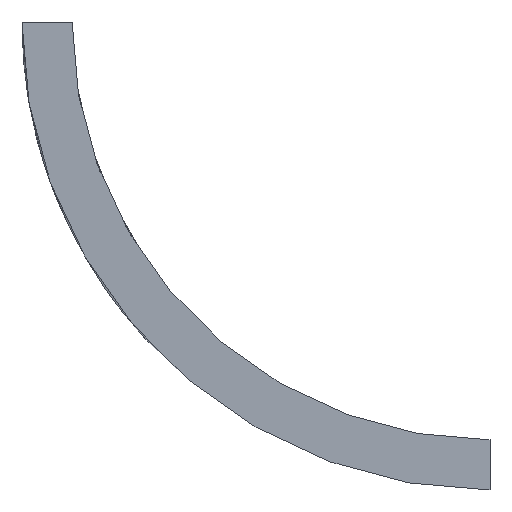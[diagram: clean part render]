
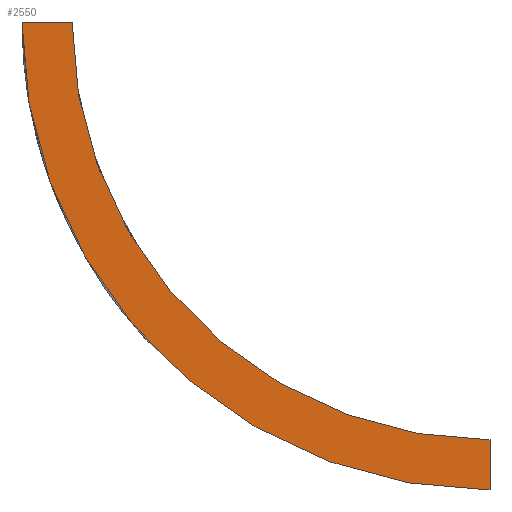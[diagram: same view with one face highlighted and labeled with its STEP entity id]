
A CAD part, front view. The second image highlights one B-rep face of the part: STEP entity #2550.
In plain terms, the highlighted planar face has unit normal (0, -1, 0).
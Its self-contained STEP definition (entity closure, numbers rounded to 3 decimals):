
#32 = CYLINDRICAL_SURFACE('',#33,10.);
#33 = AXIS2_PLACEMENT_3D('',#34,#35,#36);
#34 = CARTESIAN_POINT('',(-29.,-25.,-14.));
#35 = DIRECTION('',(0.,1.,0.));
#36 = DIRECTION('',(-0.707,0.,-0.707));
#438 = VERTEX_POINT('',#439);
#439 = CARTESIAN_POINT('',(-29.,-50.,-24.));
#453 = PLANE('',#454);
#454 = AXIS2_PLACEMENT_3D('',#455,#456,#457);
#455 = CARTESIAN_POINT('',(-29.,0.,-24.6));
#456 = DIRECTION('',(1.,0.,0.));
#457 = DIRECTION('',(-0.,0.,1.));
#465 = EDGE_CURVE('',#466,#438,#468,.T.);
#466 = VERTEX_POINT('',#467);
#467 = CARTESIAN_POINT('',(-39.,-50.,-14.));
#468 = SURFACE_CURVE('',#469,(#474,#481),.PCURVE_S1.);
#469 = CIRCLE('',#470,10.);
#470 = AXIS2_PLACEMENT_3D('',#471,#472,#473);
#471 = CARTESIAN_POINT('',(-29.,-50.,-14.));
#472 = DIRECTION('',(0.,-1.,0.));
#473 = DIRECTION('',(-1.,0.,0.));
#474 = PCURVE('',#32,#475);
#475 = DEFINITIONAL_REPRESENTATION('',(#476),#480);
#476 = LINE('',#477,#478);
#477 = CARTESIAN_POINT('',(0.785,-25.));
#478 = VECTOR('',#479,1.);
#479 = DIRECTION('',(-1.,0.));
#480 = ( GEOMETRIC_REPRESENTATION_CONTEXT(2) 
PARAMETRIC_REPRESENTATION_CONTEXT() REPRESENTATION_CONTEXT('2D SPACE',''
  ) );
#481 = PCURVE('',#482,#487);
#482 = PLANE('',#483);
#483 = AXIS2_PLACEMENT_3D('',#484,#485,#486);
#484 = CARTESIAN_POINT('',(-35.525,-50.,-20.525));
#485 = DIRECTION('',(0.,1.,0.));
#486 = DIRECTION('',(0.,-0.,1.));
#487 = DEFINITIONAL_REPRESENTATION('',(#488),#496);
#488 = ( BOUNDED_CURVE() B_SPLINE_CURVE(2,(#489,#490,#491,#492,#493,#494
,#495),.UNSPECIFIED.,.T.,.F.) B_SPLINE_CURVE_WITH_KNOTS((1,2,2,2,2,1),(
    -2.094,0.,2.094,4.189,6.283,
8.378),.UNSPECIFIED.) CURVE() GEOMETRIC_REPRESENTATION_ITEM() 
RATIONAL_B_SPLINE_CURVE((1.,0.5,1.,0.5,1.,0.5,1.)) REPRESENTATION_ITEM(
  '') );
#489 = CARTESIAN_POINT('',(6.525,-3.475));
#490 = CARTESIAN_POINT('',(-10.795,-3.475));
#491 = CARTESIAN_POINT('',(-2.135,11.525));
#492 = CARTESIAN_POINT('',(6.525,26.525));
#493 = CARTESIAN_POINT('',(15.185,11.525));
#494 = CARTESIAN_POINT('',(23.846,-3.475));
#495 = CARTESIAN_POINT('',(6.525,-3.475));
#496 = ( GEOMETRIC_REPRESENTATION_CONTEXT(2) 
PARAMETRIC_REPRESENTATION_CONTEXT() REPRESENTATION_CONTEXT('2D SPACE',''
  ) );
#514 = PLANE('',#515);
#515 = AXIS2_PLACEMENT_3D('',#516,#517,#518);
#516 = CARTESIAN_POINT('',(-39.6,-49.027,-14.));
#517 = DIRECTION('',(0.,0.,1.));
#518 = DIRECTION('',(1.,0.,0.));
#1457 = CYLINDRICAL_SURFACE('',#1458,11.2);
#1458 = AXIS2_PLACEMENT_3D('',#1459,#1460,#1461);
#1459 = CARTESIAN_POINT('',(-29.,-25.,-14.));
#1460 = DIRECTION('',(0.,1.,0.));
#1461 = DIRECTION('',(-0.707,0.,-0.707));
#1773 = VERTEX_POINT('',#1774);
#1774 = CARTESIAN_POINT('',(-29.,-50.,-25.2));
#1795 = EDGE_CURVE('',#1796,#1773,#1798,.T.);
#1796 = VERTEX_POINT('',#1797);
#1797 = CARTESIAN_POINT('',(-40.2,-50.,-14.));
#1798 = SURFACE_CURVE('',#1799,(#1804,#1811),.PCURVE_S1.);
#1799 = CIRCLE('',#1800,11.2);
#1800 = AXIS2_PLACEMENT_3D('',#1801,#1802,#1803);
#1801 = CARTESIAN_POINT('',(-29.,-50.,-14.));
#1802 = DIRECTION('',(0.,-1.,-0.));
#1803 = DIRECTION('',(-1.,0.,0.));
#1804 = PCURVE('',#1457,#1805);
#1805 = DEFINITIONAL_REPRESENTATION('',(#1806),#1810);
#1806 = LINE('',#1807,#1808);
#1807 = CARTESIAN_POINT('',(0.785,-25.));
#1808 = VECTOR('',#1809,1.);
#1809 = DIRECTION('',(-1.,0.));
#1810 = ( GEOMETRIC_REPRESENTATION_CONTEXT(2) 
PARAMETRIC_REPRESENTATION_CONTEXT() REPRESENTATION_CONTEXT('2D SPACE',''
  ) );
#1811 = PCURVE('',#482,#1812);
#1812 = DEFINITIONAL_REPRESENTATION('',(#1813),#1821);
#1813 = ( BOUNDED_CURVE() B_SPLINE_CURVE(2,(#1814,#1815,#1816,#1817,
#1818,#1819,#1820),.UNSPECIFIED.,.T.,.F.) B_SPLINE_CURVE_WITH_KNOTS((1,2
    ,2,2,2,1),(-2.094,0.,2.094,4.189,
6.283,8.378),.UNSPECIFIED.) CURVE() 
GEOMETRIC_REPRESENTATION_ITEM() RATIONAL_B_SPLINE_CURVE((1.,0.5,1.,0.5,
1.,0.5,1.)) REPRESENTATION_ITEM('') );
#1814 = CARTESIAN_POINT('',(6.525,-4.675));
#1815 = CARTESIAN_POINT('',(-12.874,-4.675));
#1816 = CARTESIAN_POINT('',(-3.174,12.125));
#1817 = CARTESIAN_POINT('',(6.525,28.925));
#1818 = CARTESIAN_POINT('',(16.225,12.125));
#1819 = CARTESIAN_POINT('',(25.924,-4.675));
#1820 = CARTESIAN_POINT('',(6.525,-4.675));
#1821 = ( GEOMETRIC_REPRESENTATION_CONTEXT(2) 
PARAMETRIC_REPRESENTATION_CONTEXT() REPRESENTATION_CONTEXT('2D SPACE',''
  ) );
#2528 = EDGE_CURVE('',#438,#1773,#2529,.T.);
#2529 = SURFACE_CURVE('',#2530,(#2534,#2541),.PCURVE_S1.);
#2530 = LINE('',#2531,#2532);
#2531 = CARTESIAN_POINT('',(-29.,-50.,-24.));
#2532 = VECTOR('',#2533,1.);
#2533 = DIRECTION('',(0.,0.,-1.));
#2534 = PCURVE('',#453,#2535);
#2535 = DEFINITIONAL_REPRESENTATION('',(#2536),#2540);
#2536 = LINE('',#2537,#2538);
#2537 = CARTESIAN_POINT('',(0.6,50.));
#2538 = VECTOR('',#2539,1.);
#2539 = DIRECTION('',(-1.,0.));
#2540 = ( GEOMETRIC_REPRESENTATION_CONTEXT(2) 
PARAMETRIC_REPRESENTATION_CONTEXT() REPRESENTATION_CONTEXT('2D SPACE',''
  ) );
#2541 = PCURVE('',#482,#2542);
#2542 = DEFINITIONAL_REPRESENTATION('',(#2543),#2547);
#2543 = LINE('',#2544,#2545);
#2544 = CARTESIAN_POINT('',(-3.475,6.525));
#2545 = VECTOR('',#2546,1.);
#2546 = DIRECTION('',(-1.,0.));
#2547 = ( GEOMETRIC_REPRESENTATION_CONTEXT(2) 
PARAMETRIC_REPRESENTATION_CONTEXT() REPRESENTATION_CONTEXT('2D SPACE',''
  ) );
#2550 = ADVANCED_FACE('',(#2551),#482,.F.);
#2551 = FACE_BOUND('',#2552,.F.);
#2552 = EDGE_LOOP('',(#2553,#2554,#2555,#2556));
#2553 = ORIENTED_EDGE('',*,*,#465,.T.);
#2554 = ORIENTED_EDGE('',*,*,#2528,.T.);
#2555 = ORIENTED_EDGE('',*,*,#1795,.F.);
#2556 = ORIENTED_EDGE('',*,*,#2557,.F.);
#2557 = EDGE_CURVE('',#466,#1796,#2558,.T.);
#2558 = SURFACE_CURVE('',#2559,(#2563,#2570),.PCURVE_S1.);
#2559 = LINE('',#2560,#2561);
#2560 = CARTESIAN_POINT('',(-39.,-50.,-14.));
#2561 = VECTOR('',#2562,1.);
#2562 = DIRECTION('',(-1.,0.,0.));
#2563 = PCURVE('',#482,#2564);
#2564 = DEFINITIONAL_REPRESENTATION('',(#2565),#2569);
#2565 = LINE('',#2566,#2567);
#2566 = CARTESIAN_POINT('',(6.525,-3.475));
#2567 = VECTOR('',#2568,1.);
#2568 = DIRECTION('',(0.,-1.));
#2569 = ( GEOMETRIC_REPRESENTATION_CONTEXT(2) 
PARAMETRIC_REPRESENTATION_CONTEXT() REPRESENTATION_CONTEXT('2D SPACE',''
  ) );
#2570 = PCURVE('',#514,#2571);
#2571 = DEFINITIONAL_REPRESENTATION('',(#2572),#2576);
#2572 = LINE('',#2573,#2574);
#2573 = CARTESIAN_POINT('',(0.6,-0.973));
#2574 = VECTOR('',#2575,1.);
#2575 = DIRECTION('',(-1.,0.));
#2576 = ( GEOMETRIC_REPRESENTATION_CONTEXT(2) 
PARAMETRIC_REPRESENTATION_CONTEXT() REPRESENTATION_CONTEXT('2D SPACE',''
  ) );
